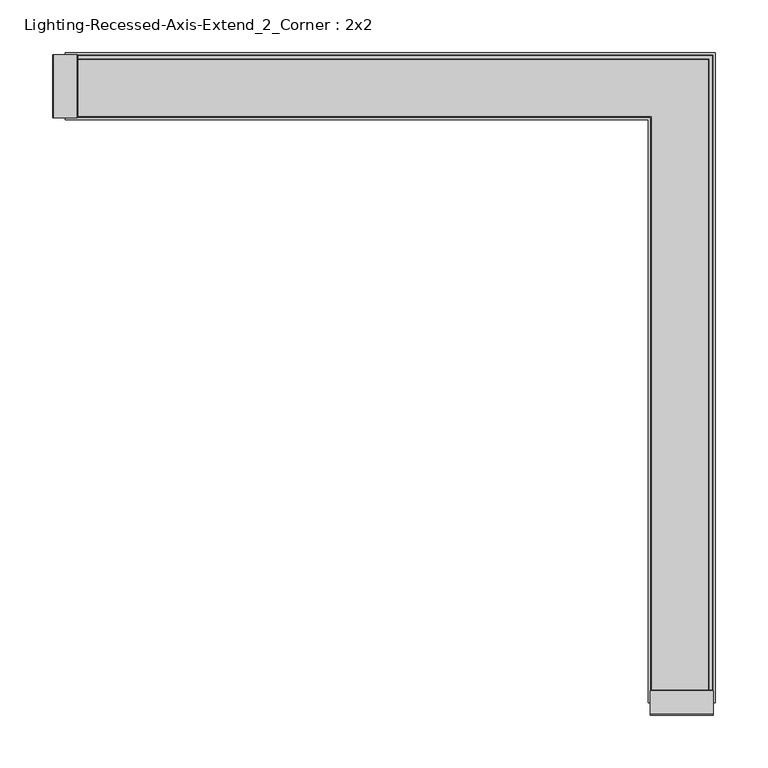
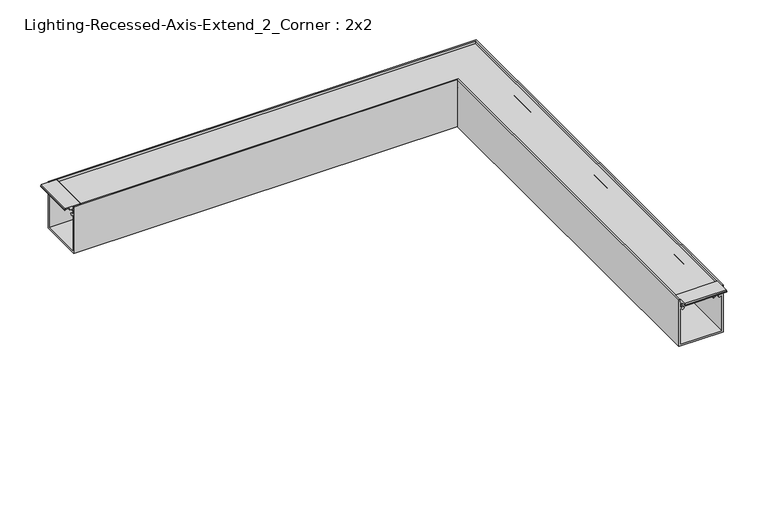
"""IFC4 building model written with IfcOpenShell, lengths in millimetres: light fixture geometry, Lighting-Recessed-Axis-Extend_2_Corner : 2x2."""

from ifc_helpers import new_model, si_unit, frame, origin, place, context, project, spatial, polyline, circle_curve, ellipse_curve, outline, extrude, source, transform, mapped, element, save
from ifc_brep_helpers import plane_surface, cylinder_surface, revolved_surface, advanced_brep


def lighting_recessed_axis_extend_2_corner_2x2_d16d7cd6(model_context):
    return source(origin(), model_context, "Body", "SolidModel", [
        extrude(outline(polyline([(-598.8558, -1.1017139), (-597.9312563, 0.0), (-575.5741437, 0.0), (-574.6496, -1.1017139), (-574.6496, -2.57175), (-575.44335, -2.57175), (-575.44335, -1.778), (-581.914, -1.778), (-581.914, -4.5842019), (-591.5914, -4.5842019), (-591.5914, -1.778), (-598.06205, -1.778), (-598.06205, -2.57175), (-598.8558, -2.57175), (-598.8558, -1.1017139)])), frame((242.824, 0.0, 0.0), z_axis=(1.0, 0.0, 0.0), x_axis=(0.0, 1.0, 0.0)), (0.0, 0.0, 1.0), 59.944),
        extrude(outline(polyline([(-1.1017139, -301.8536), (0.0, -302.7781437), (0.0, -325.1352563), (-1.1017139, -326.0598), (-2.57175, -326.0598), (-2.57175, -325.26605), (-1.778, -325.26605), (-1.778, -318.7954), (-4.5842019, -318.7954), (-4.5842019, -309.118), (-1.778, -309.118), (-1.778, -302.64735), (-2.57175, -302.64735), (-2.57175, -301.8536), (-1.1017139, -301.8536)])), frame((0.0, -29.972, 0.0), z_axis=(0.0, 1.0, 0.0), x_axis=(0.0, 0.0, 1.0)), (0.0, 0.0, 1.0), 59.944),
        advanced_brep(
        [(-304.8, -24.1727262, -4.8895009), (-304.8, -24.5114181, -11.3521263), (-304.8, -25.3818814, -17.9580097), (-304.8, -24.5665956, -19.4557425), (-304.8, -23.2119066, -20.6551445), (-304.8, -24.192808, -21.9831631), (-304.8, -25.7659952, -20.5903092), (-304.8, -27.1108807, -16.75974), (-304.8, -25.4753941, -12.7205342), (-304.8, -26.1394859, -10.8713211), (-304.8, -25.825992, -4.8895009), (-304.8, -28.829, -4.8895009), (-304.8, -28.829, -2.9845), (-304.8, 28.829, -2.9845), (-304.8, 28.829, -4.8895009), (-304.8, 25.825992, -4.8895009), (-304.8, 26.1394859, -10.8713211), (-304.8, 25.4753941, -12.7205342), (-304.8, 27.1108807, -16.75974), (-304.8, 25.7659952, -20.5903092), (-304.8, 24.192808, -21.9831631), (-304.8, 23.2119066, -20.6551445), (-304.8, 24.5665956, -19.4557425), (-304.8, 25.3818814, -17.9580097), (-304.8, 24.5114181, -11.3521263), (-304.8, 24.1727262, -4.8895009), (248.6232738, -577.596, -4.8895009), (296.9687262, -577.596, -4.8895009), (297.3074181, -577.596, -11.3521263), (298.1778814, -577.596, -17.9580097), (297.3625956, -577.596, -19.4557425), (296.0079066, -577.596, -20.6551445), (296.988808, -577.596, -21.9831631), (298.5619952, -577.596, -20.5903092), (299.9068807, -577.596, -16.75974), (298.2713941, -577.596, -12.7205342), (298.9354859, -577.596, -10.8713211), (298.621992, -577.596, -4.8895009), (301.625, -577.596, -4.8895009), (301.625, -577.596, -2.9845), (243.967, -577.596, -2.9845), (243.967, -577.596, -4.8895009), (246.970008, -577.596, -4.8895009), (246.6565141, -577.596, -10.8713211), (247.3206059, -577.596, -12.7205342), (245.6851193, -577.596, -16.75974), (247.0300048, -577.596, -20.5903092), (248.603192, -577.596, -21.9831631), (249.5840934, -577.596, -20.6551445), (248.2294044, -577.596, -19.4557425), (247.4141186, -577.596, -17.9580097), (248.2845819, -577.596, -11.3521263), (248.6232738, -24.1727262, -4.8895009), (248.2845819, -24.5114181, -11.3521263), (247.4141186, -25.3818814, -17.9580097), (248.2294044, -24.5665956, -19.4557425), (249.5840934, -23.2119066, -20.6551445), (248.603192, -24.192808, -21.9831631), (247.0300048, -25.7659952, -20.5903092), (245.6851193, -27.1108807, -16.75974), (247.3206059, -25.4753941, -12.7205342), (246.6565141, -26.1394859, -10.8713211), (246.970008, -25.825992, -4.8895009), (243.967, -28.829, -4.8895009), (243.967, -28.829, -2.9845), (301.625, 28.829, -2.9845), (301.625, 28.829, -4.8895009), (298.621992, 25.825992, -4.8895009), (298.9354859, 26.1394859, -10.8713211), (298.2713941, 25.4753941, -12.7205342), (299.9068807, 27.1108807, -16.75974), (298.5619952, 25.7659952, -20.5903092), (296.988808, 24.192808, -21.9831631), (296.0079066, 23.2119066, -20.6551445), (297.3625956, 24.5665956, -19.4557425), (298.1778814, 25.3818814, -17.9580097), (297.3074181, 24.5114181, -11.3521263), (296.9687262, 24.1727262, -4.8895009)],
        [
            (0, 1),
            (1, 2, circle_curve(frame((-304.8, -27.2542, -14.351), z_axis=(-1.0, 0.0, 0.0), x_axis=(0.0, 0.6748971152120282, 0.7379118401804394)), 4.064)),
            (2, 3, circle_curve(frame((-304.8, -22.149344, -17.1691543), z_axis=(1.0, 0.0, 0.0), x_axis=(0.0, -0.971490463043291, -0.23707863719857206)), 3.3274001)),
            (3, 4, circle_curve(frame((-304.8, -17.1303177, -12.4214292), z_axis=(1.0, 0.0, 0.0), x_axis=(0.0, -0.7264901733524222, -0.6871768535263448)), 10.2362001)),
            (4, 5, circle_curve(frame((-304.8, -23.7023573, -21.3191538), z_axis=(-1.0, 0.0, 0.0), x_axis=(0.0, 0.5941256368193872, 0.8043722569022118)), 0.8255)),
            (5, 6, circle_curve(frame((-304.8, -17.1303169, -12.4214283), z_axis=(-1.0, 0.0, 0.0), x_axis=(0.0, -0.5941256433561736, -0.8043722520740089)), 11.8872013)),
            (6, 7, circle_curve(frame((-304.8, -22.149344, -17.1691543), z_axis=(-1.0, 0.0, 0.0), x_axis=(0.0, -0.726468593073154, -0.6871996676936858)), 4.9784001)),
            (7, 8, circle_curve(frame((-304.8, -27.2542, -14.351), z_axis=(1.0, 0.0, 0.0), x_axis=(0.0, 0.05939464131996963, -0.9982345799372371)), 2.413)),
            (8, 9, circle_curve(frame((-304.8, -23.6029669, -11.0042544), z_axis=(-1.0, 0.0, 0.0), x_axis=(0.0, -0.7371760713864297, -0.675700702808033)), 2.54)),
            (9, 10),
            (10, 11),
            (11, 12),
            (12, 13),
            (13, 14),
            (14, 15),
            (15, 16),
            (16, 17, circle_curve(frame((-304.8, 23.6029669, -11.0042544), z_axis=(-1.0, 0.0, 0.0), x_axis=(0.0, 0.9986295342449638, 0.05233596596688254)), 2.54)),
            (17, 18, circle_curve(frame((-304.8, 27.2542, -14.351), z_axis=(1.0, 0.0, 0.0), x_axis=(0.0, -0.7371760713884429, 0.6757007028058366)), 2.413)),
            (18, 19, circle_curve(frame((-304.8, 22.149344, -17.1691543), z_axis=(-1.0, 0.0, 0.0), x_axis=(0.0, 0.996612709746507, 0.08223811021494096)), 4.9784001)),
            (19, 20, circle_curve(frame((-304.8, 17.1303169, -12.4214283), z_axis=(-1.0, 0.0, 0.0), x_axis=(0.0, 0.72646858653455, -0.6871996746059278)), 11.8872013)),
            (20, 21, circle_curve(frame((-304.8, 23.7023573, -21.3191538), z_axis=(-1.0, 0.0, 0.0), x_axis=(0.0, 0.594125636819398, -0.8043722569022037)), 0.8255)),
            (21, 22, circle_curve(frame((-304.8, 17.1303177, -12.4214292), z_axis=(1.0, 0.0, 0.0), x_axis=(0.0, 0.5941256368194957, -0.8043722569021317)), 10.2362001)),
            (22, 23, circle_curve(frame((-304.8, 22.149344, -17.1691543), z_axis=(1.0, 0.0, 0.0), x_axis=(0.0, 0.7265349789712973, -0.6871294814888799)), 3.3274001)),
            (23, 24, circle_curve(frame((-304.8, 27.2542, -14.351), z_axis=(-1.0, 0.0, 0.0), x_axis=(0.0, -0.46070831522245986, -0.8875516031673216)), 4.064)),
            (24, 25),
            (25, 0),
            (26, 27),
            (27, 28),
            (28, 29, circle_curve(frame((300.0502, -577.596, -14.351), z_axis=(0.0, -1.0, 0.0), x_axis=(-0.46070831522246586, 0.0, -0.8875516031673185)), 4.064)),
            (29, 30, circle_curve(frame((294.945344, -577.596, -17.1691543), z_axis=(0.0, 1.0, 0.0), x_axis=(0.7265349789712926, 0.0, -0.6871294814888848)), 3.3274001)),
            (30, 31, circle_curve(frame((289.9263177, -577.596, -12.4214292), z_axis=(0.0, 1.0, 0.0), x_axis=(0.5941256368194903, 0.0, -0.8043722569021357)), 10.2362001)),
            (31, 32, circle_curve(frame((296.4983573, -577.596, -21.3191538), z_axis=(0.0, -1.0, 0.0), x_axis=(0.5941256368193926, 0.0, -0.8043722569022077)), 0.8255)),
            (32, 33, circle_curve(frame((289.9263169, -577.596, -12.4214283), z_axis=(0.0, -1.0, 0.0), x_axis=(0.7264685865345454, 0.0, -0.6871996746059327)), 11.8872013)),
            (33, 34, circle_curve(frame((294.945344, -577.596, -17.1691543), z_axis=(0.0, -1.0, 0.0), x_axis=(0.9966127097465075, 0.0, 0.0822381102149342)), 4.9784001)),
            (34, 35, circle_curve(frame((300.0502, -577.596, -14.351), z_axis=(0.0, 1.0, 0.0), x_axis=(-0.7371760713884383, 0.0, 0.6757007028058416)), 2.413)),
            (35, 36, circle_curve(frame((296.3989669, -577.596, -11.0042544), z_axis=(0.0, -1.0, 0.0), x_axis=(0.9986295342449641, 0.0, 0.052335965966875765)), 2.54)),
            (36, 37),
            (37, 38),
            (38, 39),
            (39, 40),
            (40, 41),
            (41, 42),
            (42, 43),
            (43, 44, circle_curve(frame((249.1930331, -577.596, -11.0042544), z_axis=(0.0, -1.0, 0.0), x_axis=(-0.7371760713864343, 0.0, -0.675700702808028)), 2.54)),
            (44, 45, circle_curve(frame((245.5418, -577.596, -14.351), z_axis=(0.0, 1.0, 0.0), x_axis=(0.05939464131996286, 0.0, -0.9982345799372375)), 2.413)),
            (45, 46, circle_curve(frame((250.646656, -577.596, -17.1691543), z_axis=(0.0, -1.0, 0.0), x_axis=(-0.7264685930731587, 0.0, -0.6871996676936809)), 4.9784001)),
            (46, 47, circle_curve(frame((255.6656831, -577.596, -12.4214283), z_axis=(0.0, -1.0, 0.0), x_axis=(-0.594125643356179, 0.0, -0.8043722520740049)), 11.8872013)),
            (47, 48, circle_curve(frame((249.0936427, -577.596, -21.3191538), z_axis=(0.0, -1.0, 0.0), x_axis=(0.5941256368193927, 0.0, 0.8043722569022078)), 0.8255)),
            (48, 49, circle_curve(frame((255.6656823, -577.596, -12.4214292), z_axis=(0.0, 1.0, 0.0), x_axis=(-0.7264901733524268, 0.0, -0.68717685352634)), 10.2362001)),
            (49, 50, circle_curve(frame((250.646656, -577.596, -17.1691543), z_axis=(0.0, 1.0, 0.0), x_axis=(-0.9714904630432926, 0.0, -0.23707863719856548)), 3.3274001)),
            (50, 51, circle_curve(frame((245.5418, -577.596, -14.351), z_axis=(0.0, -1.0, 0.0), x_axis=(0.6748971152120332, 0.0, 0.7379118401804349)), 4.064)),
            (51, 26),
            (0, 52),
            (52, 53),
            (53, 1),
            (53, 54, ellipse_curve(frame((245.5418, -27.2542, -14.351), z_axis=(-0.7071067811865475, 0.7071067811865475, 0.0), x_axis=(-0.7071067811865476, -0.7071067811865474, 0.0)), 5.7473639, 4.064)),
            (54, 2),
            (54, 55, ellipse_curve(frame((250.646656, -22.149344, -17.1691543), z_axis=(0.7071067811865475, -0.7071067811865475, 0.0), x_axis=(0.7071067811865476, 0.7071067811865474, 0.0)), 4.7056543, 3.3274001)),
            (55, 3),
            (55, 56, ellipse_curve(frame((255.6656823, -17.1303177, -12.4214292), z_axis=(0.7071067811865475, -0.7071067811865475, 0.0), x_axis=(0.7071067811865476, 0.7071067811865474, 0.0)), 14.476173, 10.2362001)),
            (56, 4),
            (56, 57, ellipse_curve(frame((249.0936427, -23.7023573, -21.3191538), z_axis=(-0.7071067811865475, 0.7071067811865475, 0.0), x_axis=(-0.7071067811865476, -0.7071067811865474, 0.0)), 1.1674333, 0.8255)),
            (57, 5),
            (57, 58, ellipse_curve(frame((255.6656831, -17.1303169, -12.4214283), z_axis=(-0.7071067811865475, 0.7071067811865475, 0.0), x_axis=(-0.7071067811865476, -0.7071067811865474, 0.0)), 16.8110412, 11.8872013)),
            (58, 6),
            (58, 59, ellipse_curve(frame((250.646656, -22.149344, -17.1691543), z_axis=(-0.7071067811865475, 0.7071067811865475, 0.0), x_axis=(-0.7071067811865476, -0.7071067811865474, 0.0)), 7.0405209, 4.9784001)),
            (59, 7),
            (59, 60, ellipse_curve(frame((245.5418, -27.2542, -14.351), z_axis=(0.7071067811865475, -0.7071067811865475, 0.0), x_axis=(0.7071067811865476, 0.7071067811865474, 0.0)), 3.4124973, 2.413)),
            (60, 8),
            (60, 61, ellipse_curve(frame((249.1930331, -23.6029669, -11.0042544), z_axis=(-0.7071067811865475, 0.7071067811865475, 0.0), x_axis=(-0.7071067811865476, -0.7071067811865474, 0.0)), 3.5921024, 2.54)),
            (61, 9),
            (61, 62),
            (62, 10),
            (62, 42),
            (41, 63),
            (63, 11),
            (63, 64),
            (64, 12),
            (64, 40),
            (39, 65),
            (65, 13),
            (65, 66),
            (66, 14),
            (66, 38),
            (37, 67),
            (67, 15),
            (67, 68),
            (68, 16),
            (68, 69, ellipse_curve(frame((296.3989669, 23.6029669, -11.0042544), z_axis=(-0.7071067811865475, 0.7071067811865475, 0.0), x_axis=(-0.7071067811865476, -0.7071067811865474, 0.0)), 3.5921024, 2.54)),
            (69, 17),
            (69, 70, ellipse_curve(frame((300.0502, 27.2542, -14.351), z_axis=(0.7071067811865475, -0.7071067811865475, 0.0), x_axis=(0.7071067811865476, 0.7071067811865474, 0.0)), 3.4124973, 2.413)),
            (70, 18),
            (70, 71, ellipse_curve(frame((294.945344, 22.149344, -17.1691543), z_axis=(-0.7071067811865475, 0.7071067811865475, 0.0), x_axis=(-0.7071067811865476, -0.7071067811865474, 0.0)), 7.0405209, 4.9784001)),
            (71, 19),
            (71, 72, ellipse_curve(frame((289.9263169, 17.1303169, -12.4214283), z_axis=(-0.7071067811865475, 0.7071067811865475, 0.0), x_axis=(-0.7071067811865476, -0.7071067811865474, 0.0)), 16.8110412, 11.8872013)),
            (72, 20),
            (72, 73, ellipse_curve(frame((296.4983573, 23.7023573, -21.3191538), z_axis=(-0.7071067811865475, 0.7071067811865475, 0.0), x_axis=(-0.7071067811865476, -0.7071067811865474, 0.0)), 1.1674333, 0.8255)),
            (73, 21),
            (73, 74, ellipse_curve(frame((289.9263177, 17.1303177, -12.4214292), z_axis=(0.7071067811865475, -0.7071067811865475, 0.0), x_axis=(0.7071067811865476, 0.7071067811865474, 0.0)), 14.476173, 10.2362001)),
            (74, 22),
            (74, 75, ellipse_curve(frame((294.945344, 22.149344, -17.1691543), z_axis=(0.7071067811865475, -0.7071067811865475, 0.0), x_axis=(0.7071067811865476, 0.7071067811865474, 0.0)), 4.7056543, 3.3274001)),
            (75, 23),
            (75, 76, ellipse_curve(frame((300.0502, 27.2542, -14.351), z_axis=(-0.7071067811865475, 0.7071067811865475, 0.0), x_axis=(-0.7071067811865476, -0.7071067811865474, 0.0)), 5.7473639, 4.064)),
            (76, 24),
            (76, 77),
            (77, 25),
            (77, 27),
            (26, 52),
            (51, 53),
            (50, 54),
            (49, 55),
            (48, 56),
            (47, 57),
            (46, 58),
            (45, 59),
            (44, 60),
            (43, 61),
            (36, 68),
            (35, 69),
            (34, 70),
            (33, 71),
            (32, 72),
            (31, 73),
            (30, 74),
            (29, 75),
            (28, 76),
        ],
        [
            plane_surface(frame((-304.8, 0.0, -71.4375), z_axis=(-1.0, 0.0, 0.0), x_axis=(0.0, 0.0, 1.0))),
            plane_surface(frame((272.796, -577.596, -71.4375), z_axis=(0.0, -1.0, 0.0), x_axis=(0.0, 0.0, 1.0))),
            plane_surface(frame((-304.8, -24.1727262, -4.8895009), z_axis=(0.0, 0.9986295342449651, -0.05233596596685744), x_axis=(1.0, 0.0, 0.0))),
            cylinder_surface(frame((-304.8, -27.2542, -14.351), z_axis=(-1.0, 0.0, 0.0), x_axis=(0.0, 0.6748971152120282, 0.7379118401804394)), 4.064),
            revolved_surface(polyline([(253.97405606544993, -25.381881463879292, -17.958009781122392), (-304.8, -25.381881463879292, -17.958009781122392)]), (-304.8, -22.149344, -17.1691543), (1.0000000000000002, 0.0, 0.0)),
            revolved_surface(polyline([(265.9018823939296, -24.56681648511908, -19.455508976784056), (-304.8, -24.56681648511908, -19.455508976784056)]), (-304.8, -17.1303177, -12.4214292), (1.0, 0.0, 0.0)),
            cylinder_surface(frame((-304.8, -23.7023573, -21.3191538), z_axis=(-1.0000000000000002, 0.0, 0.0), x_axis=(0.0, 0.5941256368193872, 0.8043722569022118)), 0.8255),
            cylinder_surface(frame((-304.8, -17.1303169, -12.4214283), z_axis=(-1.0, 0.0, 0.0), x_axis=(0.0, -0.5941256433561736, -0.8043722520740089)), 11.8872013),
            cylinder_surface(frame((-304.8, -22.149344, -17.1691543), z_axis=(-1.0, 0.0, 0.0), x_axis=(0.0, -0.726468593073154, -0.6871996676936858)), 4.9784001),
            revolved_surface(polyline([(247.95479998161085, -27.110880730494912, -16.759740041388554), (-304.8, -27.110880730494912, -16.759740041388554)]), (-304.8, -27.2542, -14.351), (1.0, 0.0, 0.0)),
            cylinder_surface(frame((-304.8, -23.6029669, -11.0042544), z_axis=(-1.0000000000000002, 0.0, 0.0), x_axis=(0.0, -0.7371760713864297, -0.675700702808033)), 2.54),
            plane_surface(frame((-304.8, -26.1394859, -10.8713211), z_axis=(0.0, -0.9986295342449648, 0.05233596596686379), x_axis=(1.0, 0.0, 0.0))),
            plane_surface(frame((-304.8, -25.825992, -4.8895009), z_axis=(0.0, 0.0, -1.0), x_axis=(1.0, 0.0, 0.0))),
            plane_surface(frame((-304.8, -28.829, -4.8895009), z_axis=(0.0, -1.0, 0.0), x_axis=(1.0, 0.0, 0.0))),
            plane_surface(frame((-304.8, -28.829, -2.9845), z_axis=(0.0, 0.0, 1.0), x_axis=(1.0, 0.0, 0.0))),
            plane_surface(frame((-304.8, 28.829, -2.9845), z_axis=(0.0, 1.0, 0.0), x_axis=(1.0, 0.0, 0.0))),
            plane_surface(frame((-304.8, 28.829, -4.8895009), z_axis=(0.0, 0.0, -1.0), x_axis=(1.0, 0.0, 0.0))),
            plane_surface(frame((-304.8, 25.825992, -4.8895009), z_axis=(0.0, 0.9986295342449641, 0.05233596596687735), x_axis=(1.0, 0.0, 0.0))),
            cylinder_surface(frame((-304.8, 23.6029669, -11.0042544), z_axis=(-1.0, 0.0, 0.0), x_axis=(0.0, 0.9986295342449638, 0.05233596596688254)), 2.54),
            revolved_surface(polyline([(302.4631999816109, 25.475394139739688, -12.720534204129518), (-304.8, 25.475394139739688, -12.720534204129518)]), (-304.8, 27.2542, -14.351), (1.0, 0.0, 0.0)),
            cylinder_surface(frame((-304.8, 22.149344, -17.1691543), z_axis=(-1.0000000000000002, 0.0, 0.0), x_axis=(0.0, 0.996612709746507, 0.08223811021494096)), 4.9784001),
            cylinder_surface(frame((-304.8, 17.1303169, -12.4214283), z_axis=(-1.0, 0.0, 0.0), x_axis=(0.0, 0.72646858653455, -0.6871996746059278)), 11.8872013),
            cylinder_surface(frame((-304.8, 23.7023573, -21.3191538), z_axis=(-1.0, 0.0, 0.0), x_axis=(0.0, 0.594125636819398, -0.8043722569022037)), 0.8255),
            revolved_surface(polyline([(300.1625177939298, 23.211906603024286, -20.655144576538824), (-304.8, 23.211906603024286, -20.655144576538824)]), (-304.8, 17.1303177, -12.4214292), (1.0000000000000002, 0.0, 0.0)),
            revolved_surface(polyline([(298.2727440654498, 24.566816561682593, -19.455509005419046), (-304.8, 24.566816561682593, -19.455509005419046)]), (-304.8, 22.149344, -17.1691543), (1.0000000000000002, 0.0, 0.0)),
            cylinder_surface(frame((-304.8, 27.2542, -14.351), z_axis=(-1.0000000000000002, 0.0, 0.0), x_axis=(0.0, -0.46070831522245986, -0.8875516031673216)), 4.064),
            plane_surface(frame((-304.8, 24.5114181, -11.3521263), z_axis=(0.0, -0.9986295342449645, -0.052335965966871), x_axis=(1.0, 0.0, 0.0))),
            plane_surface(frame((-304.8, 24.1727262, -4.8895009), z_axis=(0.0, 0.0, -1.0), x_axis=(1.0, 0.0, 0.0))),
            plane_surface(frame((248.6232738, -24.1727262, -4.8895009), z_axis=(0.9986295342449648, 0.0, -0.05233596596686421), x_axis=(0.0, -1.0, 0.0))),
            cylinder_surface(frame((245.5418, 0.0, -14.351), z_axis=(0.0, 1.0, 0.0), x_axis=(0.6748971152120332, 0.0, 0.7379118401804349)), 4.064),
            revolved_surface(polyline([(247.4141185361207, -577.596, -17.95800978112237), (247.4141185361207, -18.821943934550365, -17.95800978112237)]), (250.646656, 0.0, -17.1691543), (0.0, -1.0, 0.0)),
            revolved_surface(polyline([(248.22918351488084, -577.596, -19.455508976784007), (248.22918351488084, -6.894117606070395, -19.455508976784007)]), (255.6656823, 0.0, -12.4214292), (0.0, -1.0, 0.0)),
            cylinder_surface(frame((249.0936427, 0.0, -21.3191538), z_axis=(0.0, 1.0000000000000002, 0.0), x_axis=(0.5941256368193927, 0.0, 0.8043722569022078)), 0.8255),
            cylinder_surface(frame((255.6656831, 0.0, -12.4214283), z_axis=(0.0, 1.0, 0.0), x_axis=(-0.594125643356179, 0.0, -0.8043722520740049)), 11.8872013),
            cylinder_surface(frame((250.646656, 0.0, -17.1691543), z_axis=(0.0, 1.0, 0.0), x_axis=(-0.7264685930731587, 0.0, -0.6871996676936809)), 4.9784001),
            revolved_surface(polyline([(245.68511926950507, -577.596, -16.759740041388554), (245.68511926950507, -24.841200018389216, -16.759740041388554)]), (245.5418, 0.0, -14.351), (0.0, -1.0, 0.0)),
            cylinder_surface(frame((249.1930331, 0.0, -11.0042544), z_axis=(0.0, 1.0, 0.0), x_axis=(-0.7371760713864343, 0.0, -0.675700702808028)), 2.54),
            plane_surface(frame((246.6565141, -26.1394859, -10.8713211), z_axis=(-0.9986295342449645, 0.0, 0.05233596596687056), x_axis=(0.0, -1.0, 0.0))),
            plane_surface(frame((243.967, -28.829, -4.8895009), z_axis=(-1.0, 0.0, 0.0), x_axis=(0.0, -1.0, 0.0))),
            plane_surface(frame((301.625, 28.829, -2.9845), z_axis=(1.0, 0.0, 0.0), x_axis=(0.0, -1.0, 0.0))),
            plane_surface(frame((298.621992, 25.825992, -4.8895009), z_axis=(0.9986295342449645, 0.0, 0.052335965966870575), x_axis=(0.0, -1.0, 0.0))),
            cylinder_surface(frame((296.3989669, 0.0, -11.0042544), z_axis=(0.0, 1.0, 0.0), x_axis=(0.9986295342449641, 0.0, 0.052335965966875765)), 2.54),
            revolved_surface(polyline([(298.2713941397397, -577.5960000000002, -12.720534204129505), (298.2713941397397, 29.6671999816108, -12.720534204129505)]), (300.0502, 0.0, -14.351), (0.0, -1.0000000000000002, 0.0)),
            cylinder_surface(frame((294.945344, 0.0, -17.1691543), z_axis=(0.0, 1.0000000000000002, 0.0), x_axis=(0.9966127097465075, 0.0, 0.0822381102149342)), 4.9784001),
            cylinder_surface(frame((289.9263169, 0.0, -12.4214283), z_axis=(0.0, 1.0, 0.0), x_axis=(0.7264685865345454, 0.0, -0.6871996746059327)), 11.8872013),
            cylinder_surface(frame((296.4983573, 0.0, -21.3191538), z_axis=(0.0, 1.0, 0.0), x_axis=(0.5941256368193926, 0.0, -0.8043722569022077)), 0.8255),
            revolved_surface(polyline([(296.00790660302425, -577.596, -20.655144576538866), (296.00790660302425, 27.366517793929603, -20.655144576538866)]), (289.9263177, 0.0, -12.4214292), (0.0, -1.0, 0.0)),
            revolved_surface(polyline([(297.36281656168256, -577.5960000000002, -19.455509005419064), (297.36281656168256, 25.476744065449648, -19.455509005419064)]), (294.945344, 0.0, -17.1691543), (0.0, -1.0000000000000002, 0.0)),
            cylinder_surface(frame((300.0502, 0.0, -14.351), z_axis=(0.0, 1.0000000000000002, 0.0), x_axis=(-0.46070831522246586, 0.0, -0.8875516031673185)), 4.064),
            plane_surface(frame((297.3074181, 24.5114181, -11.3521263), z_axis=(-0.9986295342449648, 0.0, -0.052335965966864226), x_axis=(0.0, -1.0, 0.0))),
        ],
        [
            (0, [[1, 2, 3, 4, 5, 6, 7, 8, 9, 10, 11, 12, 13, 14, 15, 16, 17, 18, 19, 20, 21, 22, 23, 24, 25, 26]]),
            (1, [[27, 28, 29, 30, 31, 32, 33, 34, 35, 36, 37, 38, 39, 40, 41, 42, 43, 44, 45, 46, 47, 48, 49, 50, 51, 52]]),
            (2, [[-1, 53, 54, 55]]),
            (3, [[-2, -55, 56, 57]]),
            (4, [[-3, -57, 58, 59]]),
            (5, [[-4, -59, 60, 61]]),
            (6, [[-5, -61, 62, 63]]),
            (7, [[-6, -63, 64, 65]]),
            (8, [[-7, -65, 66, 67]]),
            (9, [[-8, -67, 68, 69]]),
            (10, [[-9, -69, 70, 71]]),
            (11, [[-10, -71, 72, 73]]),
            (12, [[-11, -73, 74, -42, 75, 76]]),
            (13, [[-12, -76, 77, 78]]),
            (14, [[-13, -78, 79, -40, 80, 81]]),
            (15, [[-14, -81, 82, 83]]),
            (16, [[-15, -83, 84, -38, 85, 86]]),
            (17, [[-16, -86, 87, 88]]),
            (18, [[-17, -88, 89, 90]]),
            (19, [[-18, -90, 91, 92]]),
            (20, [[-19, -92, 93, 94]]),
            (21, [[-20, -94, 95, 96]]),
            (22, [[-21, -96, 97, 98]]),
            (23, [[-22, -98, 99, 100]]),
            (24, [[-23, -100, 101, 102]]),
            (25, [[-24, -102, 103, 104]]),
            (26, [[-25, -104, 105, 106]]),
            (27, [[-26, -106, 107, -27, 108, -53]]),
            (28, [[-54, -108, -52, 109]]),
            (29, [[-56, -109, -51, 110]]),
            (30, [[-58, -110, -50, 111]]),
            (31, [[-60, -111, -49, 112]]),
            (32, [[-62, -112, -48, 113]]),
            (33, [[-64, -113, -47, 114]]),
            (34, [[-66, -114, -46, 115]]),
            (35, [[-68, -115, -45, 116]]),
            (36, [[-70, -116, -44, 117]]),
            (37, [[-72, -117, -43, -74]]),
            (38, [[-77, -75, -41, -79]]),
            (39, [[-82, -80, -39, -84]]),
            (40, [[-87, -85, -37, 118]]),
            (41, [[-89, -118, -36, 119]]),
            (42, [[-91, -119, -35, 120]]),
            (43, [[-93, -120, -34, 121]]),
            (44, [[-95, -121, -33, 122]]),
            (45, [[-97, -122, -32, 123]]),
            (46, [[-99, -123, -31, 124]]),
            (47, [[-101, -124, -30, 125]]),
            (48, [[-103, -125, -29, 126]]),
            (49, [[-105, -126, -28, -107]]),
        ],
    ),
        advanced_brep(
        [(-313.9567, -29.972, -14.9098), (-313.9567, -29.972, -69.4055), (-313.9567, 29.972, -69.4055), (-313.9567, 29.972, -14.9098), (-313.9567, 28.1325797, -14.9098), (-313.9567, 25.8730546, -16.2143374), (-313.9567, 24.6896516, -13.9591318), (-313.9567, 28.067, -11.1252), (-313.9567, 28.067, -12.8778), (-313.9567, 29.972, -12.8778), (-313.9567, 29.972, -6.35), (-313.9567, 28.067, -6.35), (-313.9567, 28.067, -7.874), (-313.9567, 26.416, -7.7874748), (-313.9567, 26.416, -5.08), (-313.9567, 29.972, -5.08), (-313.9567, 29.972, 0.0), (-313.9567, 32.004, 0.0), (-313.9567, 32.004, -71.4375), (-313.9567, -32.004, -71.4375), (-313.9567, -32.004, 0.0), (-313.9567, -29.972, 0.0), (-313.9567, -29.972, -5.08), (-313.9567, -26.416, -5.08), (-313.9567, -26.416, -7.7874748), (-313.9567, -28.067, -7.874), (-313.9567, -28.067, -6.35), (-313.9567, -29.972, -6.35), (-313.9567, -29.972, -12.8778), (-313.9567, -28.067, -12.8778), (-313.9567, -28.067, -11.1252), (-313.9567, -24.6896516, -13.9591318), (-313.9567, -25.8730546, -16.2143374), (-313.9567, -28.1325797, -14.9098), (242.824, -586.7527, -14.9098), (244.6634203, -586.7527, -14.9098), (246.9229454, -586.7527, -16.2143374), (248.1063484, -586.7527, -13.9591318), (244.729, -586.7527, -11.1252), (244.729, -586.7527, -12.8778), (242.824, -586.7527, -12.8778), (242.824, -586.7527, -6.35), (244.729, -586.7527, -6.35), (244.729, -586.7527, -7.874), (246.38, -586.7527, -7.7874748), (246.38, -586.7527, -5.08), (242.824, -586.7527, -5.08), (242.824, -586.7527, 0.0), (240.792, -586.7527, 0.0), (240.792, -586.7527, -71.4375), (304.8, -586.7527, -71.4375), (304.8, -586.7527, 0.0), (302.768, -586.7527, 0.0), (302.768, -586.7527, -5.08), (299.212, -586.7527, -5.08), (299.212, -586.7527, -7.7874748), (300.863, -586.7527, -7.874), (300.863, -586.7527, -6.35), (302.768, -586.7527, -6.35), (302.768, -586.7527, -12.8778), (300.863, -586.7527, -12.8778), (300.863, -586.7527, -11.1252), (297.4856516, -586.7527, -13.9591318), (298.6690546, -586.7527, -16.2143374), (300.9285797, -586.7527, -14.9098), (302.768, -586.7527, -14.9098), (302.768, -586.7527, -69.4055), (242.824, -586.7527, -69.4055), (242.824, -29.972, -14.9098), (242.824, -29.972, -69.4055), (302.768, 29.972, -69.4055), (302.768, 29.972, -14.9098), (300.9285797, 28.1325797, -14.9098), (298.6690546, 25.8730546, -16.2143374), (297.4856516, 24.6896516, -13.9591318), (300.863, 28.067, -11.1252), (300.863, 28.067, -12.8778), (302.768, 29.972, -12.8778), (302.768, 29.972, -6.35), (300.863, 28.067, -6.35), (300.863, 28.067, -7.874), (299.212, 26.416, -7.7874748), (299.212, 26.416, -5.08), (302.768, 29.972, -5.08), (302.768, 29.972, 0.0), (304.8, 32.004, 0.0), (304.8, 32.004, -71.4375), (240.792, -32.004, -71.4375), (240.792, -32.004, 0.0), (242.824, -29.972, 0.0), (242.824, -29.972, -5.08), (246.38, -26.416, -5.08), (246.38, -26.416, -7.7874748), (244.729, -28.067, -7.874), (244.729, -28.067, -6.35), (242.824, -29.972, -6.35), (242.824, -29.972, -12.8778), (244.729, -28.067, -12.8778), (244.729, -28.067, -11.1252), (248.1063484, -24.6896516, -13.9591318), (246.9229454, -25.8730546, -16.2143374), (244.6634203, -28.1325797, -14.9098)],
        [
            (0, 1),
            (1, 2),
            (2, 3),
            (3, 4),
            (4, 5, circle_curve(frame((-313.9567, 26.6262297, -14.9098), z_axis=(-1.0, 0.0, 0.0), x_axis=(0.0, -0.499999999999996, -0.866025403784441)), 1.5063501)),
            (5, 6, circle_curve(frame((-313.9567, 27.0642121, -14.1511921), z_axis=(-1.0, 0.0, 0.0), x_axis=(0.0, -0.9967449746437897, 0.08061920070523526)), 2.382315)),
            (6, 7),
            (7, 8),
            (8, 9),
            (9, 10),
            (10, 11),
            (11, 12),
            (12, 13),
            (13, 14),
            (14, 15),
            (15, 16),
            (16, 17),
            (17, 18),
            (18, 19),
            (19, 20),
            (20, 21),
            (21, 22),
            (22, 23),
            (23, 24),
            (24, 25),
            (25, 26),
            (26, 27),
            (27, 28),
            (28, 29),
            (29, 30),
            (30, 31),
            (31, 32, circle_curve(frame((-313.9567, -27.0642121, -14.1511921), z_axis=(-1.0, 0.0, 0.0), x_axis=(0.0, 0.5000000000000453, -0.8660254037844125)), 2.382315)),
            (32, 33, circle_curve(frame((-313.9567, -26.6262297, -14.9098), z_axis=(-1.0, 0.0, 0.0), x_axis=(0.0, -1.0, 0.0)), 1.5063501)),
            (33, 0),
            (34, 35),
            (35, 36, circle_curve(frame((246.1697703, -586.7527, -14.9098), z_axis=(0.0, -1.0, 0.0), x_axis=(-1.0, 0.0, 0.0)), 1.5063501)),
            (36, 37, circle_curve(frame((245.7317879, -586.7527, -14.1511921), z_axis=(0.0, -1.0, 0.0), x_axis=(0.5000000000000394, 0.0, -0.866025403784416)), 2.382315)),
            (37, 38),
            (38, 39),
            (39, 40),
            (40, 41),
            (41, 42),
            (42, 43),
            (43, 44),
            (44, 45),
            (45, 46),
            (46, 47),
            (47, 48),
            (48, 49),
            (49, 50),
            (50, 51),
            (51, 52),
            (52, 53),
            (53, 54),
            (54, 55),
            (55, 56),
            (56, 57),
            (57, 58),
            (58, 59),
            (59, 60),
            (60, 61),
            (61, 62),
            (62, 63, circle_curve(frame((299.8602121, -586.7527, -14.1511921), z_axis=(0.0, -1.0, 0.0), x_axis=(-0.9967449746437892, 0.0, 0.08061920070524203)), 2.382315)),
            (63, 64, circle_curve(frame((299.4222297, -586.7527, -14.9098), z_axis=(0.0, -1.0, 0.0), x_axis=(-0.5000000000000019, 0.0, -0.8660254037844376)), 1.5063501)),
            (64, 65),
            (65, 66),
            (66, 67),
            (67, 34),
            (0, 68),
            (68, 69),
            (69, 1),
            (69, 67),
            (66, 70),
            (70, 2),
            (70, 71),
            (71, 3),
            (71, 65),
            (64, 72),
            (72, 4),
            (72, 73, ellipse_curve(frame((299.4222297, 26.6262297, -14.9098), z_axis=(-0.7071067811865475, 0.7071067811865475, 0.0), x_axis=(-0.7071067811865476, -0.7071067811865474, 0.0)), 2.1303007, 1.5063501)),
            (73, 5),
            (73, 74, ellipse_curve(frame((299.8602121, 27.0642121, -14.1511921), z_axis=(-0.7071067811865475, 0.7071067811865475, 0.0), x_axis=(-0.7071067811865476, -0.7071067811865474, 0.0)), 3.3691022, 2.382315)),
            (74, 6),
            (74, 75),
            (75, 7),
            (75, 76),
            (76, 8),
            (76, 60),
            (59, 77),
            (77, 9),
            (77, 78),
            (78, 10),
            (78, 58),
            (57, 79),
            (79, 11),
            (79, 80),
            (80, 12),
            (80, 81),
            (81, 13),
            (81, 82),
            (82, 14),
            (82, 54),
            (53, 83),
            (83, 15),
            (83, 84),
            (84, 16),
            (84, 52),
            (51, 85),
            (85, 17),
            (85, 86),
            (86, 18),
            (86, 50),
            (49, 87),
            (87, 19),
            (87, 88),
            (88, 20),
            (88, 48),
            (47, 89),
            (89, 21),
            (89, 90),
            (90, 22),
            (90, 46),
            (45, 91),
            (91, 23),
            (91, 92),
            (92, 24),
            (92, 93),
            (93, 25),
            (93, 94),
            (94, 26),
            (94, 42),
            (41, 95),
            (95, 27),
            (95, 96),
            (96, 28),
            (96, 40),
            (39, 97),
            (97, 29),
            (97, 98),
            (98, 30),
            (98, 99),
            (99, 31),
            (99, 100, ellipse_curve(frame((245.7317879, -27.0642121, -14.1511921), z_axis=(-0.7071067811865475, 0.7071067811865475, 0.0), x_axis=(-0.7071067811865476, -0.7071067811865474, 0.0)), 3.3691022, 2.382315)),
            (100, 32),
            (100, 101, ellipse_curve(frame((246.1697703, -26.6262297, -14.9098), z_axis=(-0.7071067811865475, 0.7071067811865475, 0.0), x_axis=(-0.7071067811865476, -0.7071067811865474, 0.0)), 2.1303007, 1.5063501)),
            (101, 33),
            (101, 35),
            (34, 68),
            (63, 73),
            (62, 74),
            (61, 75),
            (56, 80),
            (55, 81),
            (44, 92),
            (43, 93),
            (38, 98),
            (37, 99),
            (36, 100),
        ],
        [
            plane_surface(frame((-313.9567, 0.0, -71.4375), z_axis=(-1.0, 0.0, 0.0), x_axis=(0.0, 0.0, 1.0))),
            plane_surface(frame((272.796, -586.7527, -71.4375), z_axis=(0.0, -1.0, 0.0), x_axis=(0.0, 0.0, 1.0))),
            plane_surface(frame((-313.9567, -29.972, -14.9098), z_axis=(0.0, 1.0, 0.0), x_axis=(1.0, 0.0, 0.0))),
            plane_surface(frame((-313.9567, -29.972, -69.4055), z_axis=(0.0, 0.0, 1.0), x_axis=(1.0, 0.0, 0.0))),
            plane_surface(frame((-313.9567, 29.972, -69.4055), z_axis=(0.0, -1.0, 0.0), x_axis=(1.0, 0.0, 0.0))),
            plane_surface(frame((-313.9567, 29.972, -14.9098), z_axis=(0.0, 0.0, -1.0), x_axis=(1.0, 0.0, 0.0))),
            cylinder_surface(frame((-313.9567, 26.6262297, -14.9098), z_axis=(-1.0, 0.0, 0.0), x_axis=(0.0, -0.499999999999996, -0.866025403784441)), 1.5063501),
            cylinder_surface(frame((-313.9567, 27.0642121, -14.1511921), z_axis=(-1.0, 0.0, 0.0), x_axis=(0.0, -0.9967449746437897, 0.08061920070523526)), 2.382315),
            plane_surface(frame((-313.9567, 24.6896516, -13.9591318), z_axis=(0.0, -0.6427876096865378, 0.7660444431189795), x_axis=(1.0, 0.0, 0.0))),
            plane_surface(frame((-313.9567, 28.067, -11.1252), z_axis=(0.0, 1.0, 0.0), x_axis=(1.0, 0.0, 0.0))),
            plane_surface(frame((-313.9567, 28.067, -12.8778), z_axis=(0.0, 0.0, 1.0), x_axis=(1.0, 0.0, 0.0))),
            plane_surface(frame((-313.9567, 29.972, -12.8778), z_axis=(0.0, -1.0, 0.0), x_axis=(1.0, 0.0, 0.0))),
            plane_surface(frame((-313.9567, 29.972, -6.35), z_axis=(0.0, 0.0, -1.0), x_axis=(1.0, 0.0, 0.0))),
            plane_surface(frame((-313.9567, 28.067, -6.35), z_axis=(0.0, 1.0, 0.0), x_axis=(1.0, 0.0, 0.0))),
            plane_surface(frame((-313.9567, 28.067, -7.874), z_axis=(0.0, -0.052335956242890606, -0.9986295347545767), x_axis=(1.0, 0.0, 0.0))),
            plane_surface(frame((-313.9567, 26.416, -7.7874748), z_axis=(0.0, -1.0, 0.0), x_axis=(1.0, 0.0, 0.0))),
            plane_surface(frame((-313.9567, 26.416, -5.08), z_axis=(0.0, 0.0, 1.0), x_axis=(1.0, 0.0, 0.0))),
            plane_surface(frame((-313.9567, 29.972, -5.08), z_axis=(0.0, -1.0, 0.0), x_axis=(1.0, 0.0, 0.0))),
            plane_surface(frame((-313.9567, 29.972, 0.0), z_axis=(0.0, 0.0, 1.0), x_axis=(1.0, 0.0, 0.0))),
            plane_surface(frame((-313.9567, 32.004, 0.0), z_axis=(0.0, 1.0, 0.0), x_axis=(1.0, 0.0, 0.0))),
            plane_surface(frame((-313.9567, 32.004, -71.4375), z_axis=(0.0, 0.0, -1.0), x_axis=(1.0, 0.0, 0.0))),
            plane_surface(frame((-313.9567, -32.004, -71.4375), z_axis=(0.0, -1.0, 0.0), x_axis=(1.0, 0.0, 0.0))),
            plane_surface(frame((-313.9567, -32.004, 0.0), z_axis=(0.0, 0.0, 1.0), x_axis=(1.0, 0.0, 0.0))),
            plane_surface(frame((-313.9567, -29.972, 0.0), z_axis=(0.0, 1.0, 0.0), x_axis=(1.0, 0.0, 0.0))),
            plane_surface(frame((-313.9567, -29.972, -5.08), z_axis=(0.0, 0.0, 1.0), x_axis=(1.0, 0.0, 0.0))),
            plane_surface(frame((-313.9567, -26.416, -5.08), z_axis=(0.0, 1.0, 0.0), x_axis=(1.0, 0.0, 0.0))),
            plane_surface(frame((-313.9567, -26.416, -7.7874748), z_axis=(0.0, 0.052335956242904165, -0.998629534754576), x_axis=(1.0, 0.0, 0.0))),
            plane_surface(frame((-313.9567, -28.067, -7.874), z_axis=(0.0, -1.0, 0.0), x_axis=(1.0, 0.0, 0.0))),
            plane_surface(frame((-313.9567, -28.067, -6.35), z_axis=(0.0, 0.0, -1.0), x_axis=(1.0, 0.0, 0.0))),
            plane_surface(frame((-313.9567, -29.972, -6.35), z_axis=(0.0, 1.0, 0.0), x_axis=(1.0, 0.0, 0.0))),
            plane_surface(frame((-313.9567, -29.972, -12.8778), z_axis=(0.0, 0.0, 1.0), x_axis=(1.0, 0.0, 0.0))),
            plane_surface(frame((-313.9567, -28.067, -12.8778), z_axis=(0.0, -1.0, 0.0), x_axis=(1.0, 0.0, 0.0))),
            plane_surface(frame((-313.9567, -28.067, -11.1252), z_axis=(0.0, 0.6427876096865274, 0.7660444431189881), x_axis=(1.0, 0.0, 0.0))),
            cylinder_surface(frame((-313.9567, -27.0642121, -14.1511921), z_axis=(-1.0, 0.0, 0.0), x_axis=(0.0, 0.5000000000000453, -0.8660254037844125)), 2.382315),
            cylinder_surface(frame((-313.9567, -26.6262297, -14.9098), z_axis=(-1.0, 0.0, 0.0), x_axis=(0.0, -1.0, 0.0)), 1.5063501),
            plane_surface(frame((-313.9567, -28.1325797, -14.9098), z_axis=(0.0, 0.0, -1.0), x_axis=(1.0, 0.0, 0.0))),
            plane_surface(frame((242.824, -29.972, -14.9098), z_axis=(1.0, 0.0, 0.0), x_axis=(0.0, -1.0, 0.0))),
            plane_surface(frame((302.768, 29.972, -69.4055), z_axis=(-1.0, 0.0, 0.0), x_axis=(0.0, -1.0, 0.0))),
            cylinder_surface(frame((299.4222297, 0.0, -14.9098), z_axis=(0.0, 1.0, 0.0), x_axis=(-0.5000000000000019, 0.0, -0.8660254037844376)), 1.5063501),
            cylinder_surface(frame((299.8602121, 0.0, -14.1511921), z_axis=(0.0, 1.0000000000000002, 0.0), x_axis=(-0.9967449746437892, 0.0, 0.08061920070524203)), 2.382315),
            plane_surface(frame((297.4856516, 24.6896516, -13.9591318), z_axis=(-0.6427876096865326, 0.0, 0.7660444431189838), x_axis=(0.0, -1.0, 0.0))),
            plane_surface(frame((300.863, 28.067, -11.1252), z_axis=(1.0, 0.0, 0.0), x_axis=(0.0, -1.0, 0.0))),
            plane_surface(frame((302.768, 29.972, -12.8778), z_axis=(-1.0, 0.0, 0.0), x_axis=(0.0, -1.0, 0.0))),
            plane_surface(frame((300.863, 28.067, -6.35), z_axis=(1.0, 0.0, 0.0), x_axis=(0.0, -1.0, 0.0))),
            plane_surface(frame((300.863, 28.067, -7.874), z_axis=(-0.052335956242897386, 0.0, -0.9986295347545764), x_axis=(0.0, -1.0, 0.0))),
            plane_surface(frame((299.212, 26.416, -7.7874748), z_axis=(-1.0, 0.0, 0.0), x_axis=(0.0, -1.0, 0.0))),
            plane_surface(frame((302.768, 29.972, -5.08), z_axis=(-1.0, 0.0, 0.0), x_axis=(0.0, -1.0, 0.0))),
            plane_surface(frame((304.8, 32.004, 0.0), z_axis=(1.0, 0.0, 0.0), x_axis=(0.0, -1.0, 0.0))),
            plane_surface(frame((240.792, -32.004, -71.4375), z_axis=(-1.0, 0.0, 0.0), x_axis=(0.0, -1.0, 0.0))),
            plane_surface(frame((242.824, -29.972, 0.0), z_axis=(1.0, 0.0, 0.0), x_axis=(0.0, -1.0, 0.0))),
            plane_surface(frame((246.38, -26.416, -5.08), z_axis=(1.0, 0.0, 0.0), x_axis=(0.0, -1.0, 0.0))),
            plane_surface(frame((246.38, -26.416, -7.7874748), z_axis=(0.052335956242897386, 0.0, -0.9986295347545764), x_axis=(0.0, -1.0, 0.0))),
            plane_surface(frame((244.729, -28.067, -7.874), z_axis=(-1.0, 0.0, 0.0), x_axis=(0.0, -1.0, 0.0))),
            plane_surface(frame((242.824, -29.972, -6.35), z_axis=(1.0, 0.0, 0.0), x_axis=(0.0, -1.0, 0.0))),
            plane_surface(frame((244.729, -28.067, -12.8778), z_axis=(-1.0, 0.0, 0.0), x_axis=(0.0, -1.0, 0.0))),
            plane_surface(frame((244.729, -28.067, -11.1252), z_axis=(0.6427876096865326, 0.0, 0.7660444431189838), x_axis=(0.0, -1.0, 0.0))),
            cylinder_surface(frame((245.7317879, 0.0, -14.1511921), z_axis=(0.0, 1.0, 0.0), x_axis=(0.5000000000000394, 0.0, -0.866025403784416)), 2.382315),
            cylinder_surface(frame((246.1697703, 0.0, -14.9098), z_axis=(0.0, 1.0, 0.0), x_axis=(-1.0, 0.0, 0.0)), 1.5063501),
        ],
        [
            (0, [[1, 2, 3, 4, 5, 6, 7, 8, 9, 10, 11, 12, 13, 14, 15, 16, 17, 18, 19, 20, 21, 22, 23, 24, 25, 26, 27, 28, 29, 30, 31, 32, 33, 34]]),
            (1, [[35, 36, 37, 38, 39, 40, 41, 42, 43, 44, 45, 46, 47, 48, 49, 50, 51, 52, 53, 54, 55, 56, 57, 58, 59, 60, 61, 62, 63, 64, 65, 66, 67, 68]]),
            (2, [[-1, 69, 70, 71]]),
            (3, [[-2, -71, 72, -67, 73, 74]]),
            (4, [[-3, -74, 75, 76]]),
            (5, [[-4, -76, 77, -65, 78, 79]]),
            (6, [[-5, -79, 80, 81]]),
            (7, [[-6, -81, 82, 83]]),
            (8, [[-7, -83, 84, 85]]),
            (9, [[-8, -85, 86, 87]]),
            (10, [[-9, -87, 88, -60, 89, 90]]),
            (11, [[-10, -90, 91, 92]]),
            (12, [[-11, -92, 93, -58, 94, 95]]),
            (13, [[-12, -95, 96, 97]]),
            (14, [[-13, -97, 98, 99]]),
            (15, [[-14, -99, 100, 101]]),
            (16, [[-15, -101, 102, -54, 103, 104]]),
            (17, [[-16, -104, 105, 106]]),
            (18, [[-17, -106, 107, -52, 108, 109]]),
            (19, [[-18, -109, 110, 111]]),
            (20, [[-19, -111, 112, -50, 113, 114]]),
            (21, [[-20, -114, 115, 116]]),
            (22, [[-21, -116, 117, -48, 118, 119]]),
            (23, [[-22, -119, 120, 121]]),
            (24, [[-23, -121, 122, -46, 123, 124]]),
            (25, [[-24, -124, 125, 126]]),
            (26, [[-25, -126, 127, 128]]),
            (27, [[-26, -128, 129, 130]]),
            (28, [[-27, -130, 131, -42, 132, 133]]),
            (29, [[-28, -133, 134, 135]]),
            (30, [[-29, -135, 136, -40, 137, 138]]),
            (31, [[-30, -138, 139, 140]]),
            (32, [[-31, -140, 141, 142]]),
            (33, [[-32, -142, 143, 144]]),
            (34, [[-33, -144, 145, 146]]),
            (35, [[-34, -146, 147, -35, 148, -69]]),
            (36, [[-70, -148, -68, -72]]),
            (37, [[-75, -73, -66, -77]]),
            (38, [[-80, -78, -64, 149]]),
            (39, [[-82, -149, -63, 150]]),
            (40, [[-84, -150, -62, 151]]),
            (41, [[-86, -151, -61, -88]]),
            (42, [[-91, -89, -59, -93]]),
            (43, [[-96, -94, -57, 152]]),
            (44, [[-98, -152, -56, 153]]),
            (45, [[-100, -153, -55, -102]]),
            (46, [[-105, -103, -53, -107]]),
            (47, [[-110, -108, -51, -112]]),
            (48, [[-115, -113, -49, -117]]),
            (49, [[-120, -118, -47, -122]]),
            (50, [[-125, -123, -45, 154]]),
            (51, [[-127, -154, -44, 155]]),
            (52, [[-129, -155, -43, -131]]),
            (53, [[-134, -132, -41, -136]]),
            (54, [[-139, -137, -39, 156]]),
            (55, [[-141, -156, -38, 157]]),
            (56, [[-143, -157, -37, 158]]),
            (57, [[-145, -158, -36, -147]]),
        ],
    ),
    ])


if __name__ == "__main__":
    model = new_model("IFC4")
    model_context = context("Model", 3, world=origin())
    ifc_project = project(units=[si_unit("LENGTHUNIT", "METRE", prefix="MILLI")], contexts=[model_context])
    site = spatial("IfcSite", under=ifc_project)
    building = spatial("IfcBuilding", under=site)
    placement = place(None, origin())
    lighting_recessed_axis_extend_2_corner_2x2_shape = lighting_recessed_axis_extend_2_corner_2x2_d16d7cd6(model_context)
    element("IfcLightFixture", 1, ObjectType="Lighting-Recessed-Axis-Extend_2_Corner : 2x2", at=placement, inside=building, context=model_context, shape_type="MappedRepresentation", body=[
        mapped(lighting_recessed_axis_extend_2_corner_2x2_shape, transform((0.0, 0.0, 0.0), x_axis=(1.0, 0.0, 0.0), y_axis=(0.0, 1.0, 0.0), z_axis=(0.0, 0.0, 1.0))),
    ])
    save(model, "model.ifc")
